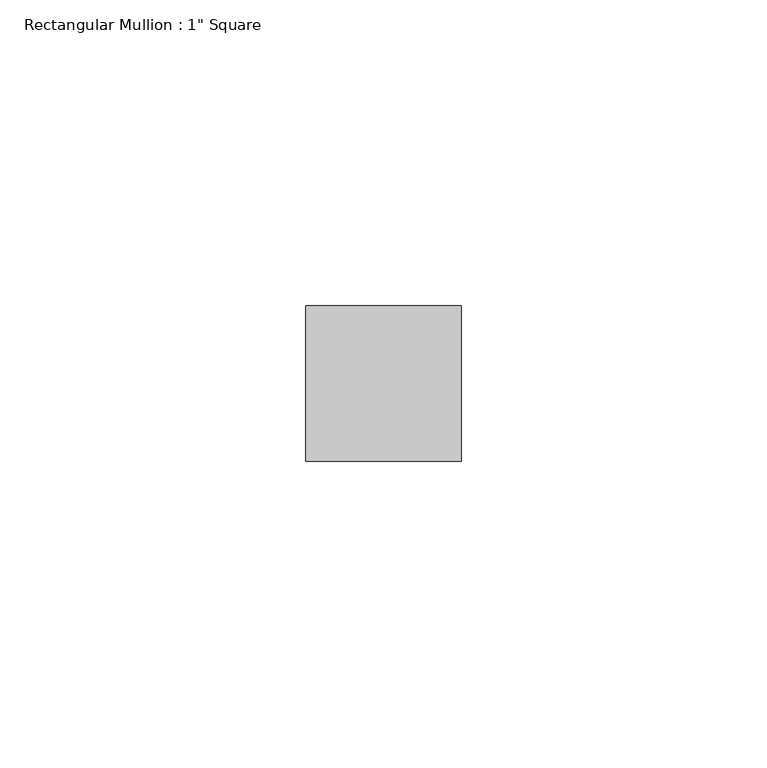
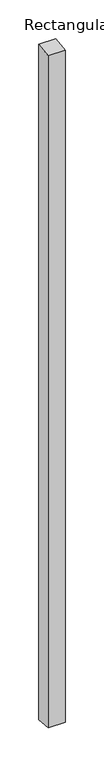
"""IFC4 building model written with IfcOpenShell, lengths in millimetres: member geometry."""

from ifc_helpers import new_model, si_unit, frame, origin, place, context, project, spatial, polyline, outline, extrude, source, transform, mapped, element, save


def member_8c9737d1(model_context):
    return source(origin(), model_context, "Body", "SweptSolid", [
        extrude(outline(polyline([(-12.7, -1.4918543), (12.7, 1.4918543), (12.7, -1068.0771724), (-12.7, -1065.5228276), (-12.7, -1.4918543)])), frame((-12.7, 0.0, 0.0), z_axis=(1.0, 0.0, 0.0), x_axis=(0.0, 1.0, 0.0)), (0.0, 0.0, 1.0), 25.4),
    ])


if __name__ == "__main__":
    model = new_model("IFC4")
    model_context = context("Model", 3, world=origin())
    ifc_project = project(units=[si_unit("LENGTHUNIT", "METRE", prefix="MILLI")], contexts=[model_context])
    site = spatial("IfcSite", under=ifc_project)
    building = spatial("IfcBuilding", under=site)
    placement = place(None, origin())
    member_shape = member_8c9737d1(model_context)
    element("IfcMember", 1, ObjectType="Rectangular Mullion : 1\" Square", at=placement, inside=building, context=model_context, shape_type="MappedRepresentation", body=[
        mapped(member_shape, transform((0.0, 0.0, 0.0), x_axis=(1.0, 0.0, 0.0), y_axis=(0.0, 1.0, 0.0), z_axis=(0.0, 0.0, 1.0))),
    ])
    save(model, "model.ifc")
